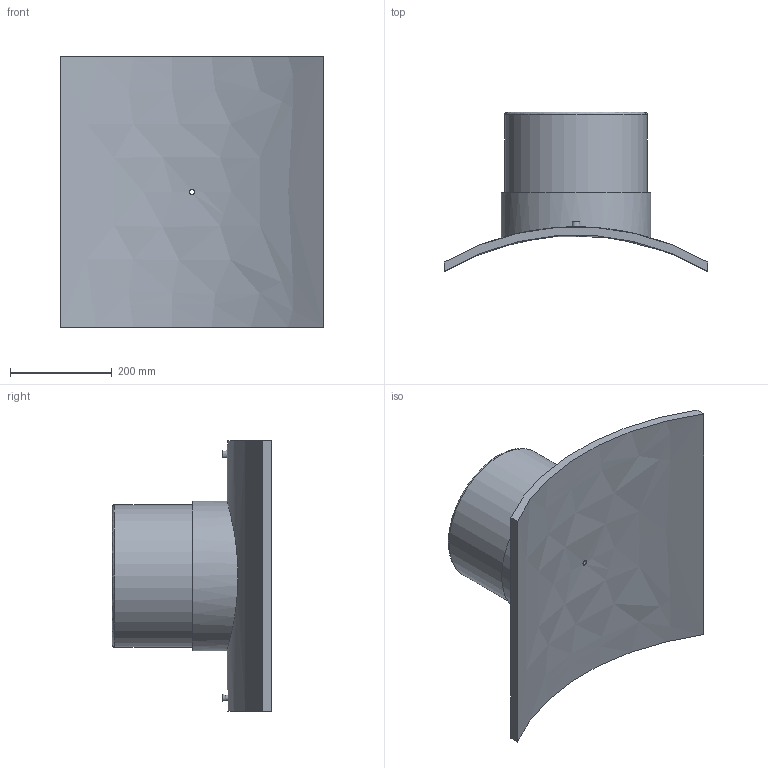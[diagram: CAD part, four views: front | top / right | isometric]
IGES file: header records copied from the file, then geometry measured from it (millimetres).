
Global section: file name: 4958031000280T.ipt; native system: Autodesk Inventor 2019; preprocessor: unknown; author: KIM; date: 20210225.094955; units: millimetre
Bounding box: 516 x 312.71 x 530 mm (x, y, z)
Volume: 10246480.7 mm3; surface area: 991912.7 mm2
Topology: 2 solids, 2 shells, 29 faces, 54 edges, 38 vertices
Faces by surface type: plane 13, revolution 7, cylinder 7, cone 2
Full cylindrical faces by diameter (mm): 4 x2, 16 x1, 280 x1, 294 x1
